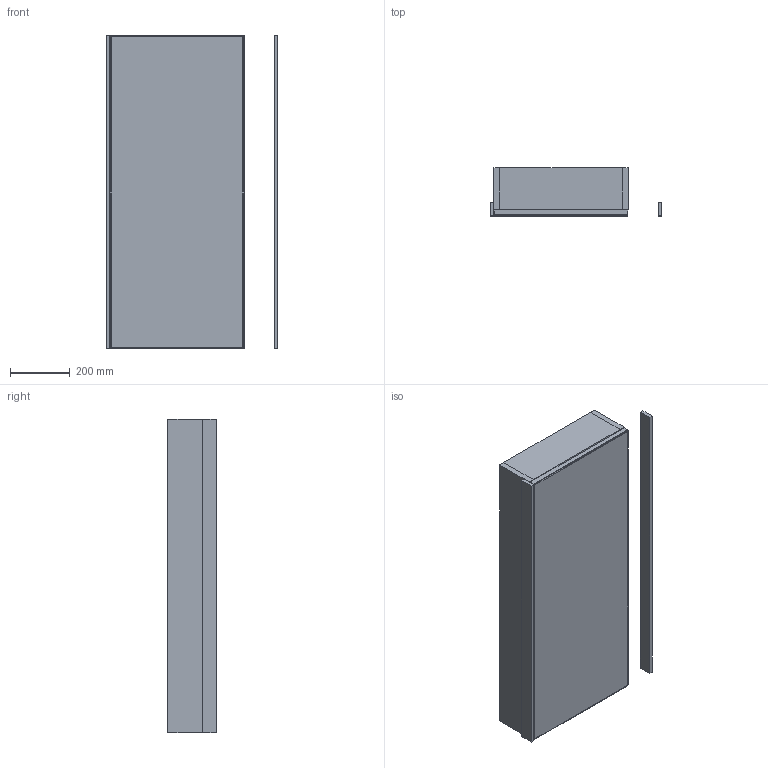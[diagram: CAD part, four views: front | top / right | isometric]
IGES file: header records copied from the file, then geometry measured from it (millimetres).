
Start section: Data from Parasolid IGES Translator 19.0.9, Copyright(c) 2006 Siemens PL M Software. All Rights Reserved.
Global section: file name: noorth-mirror-H 105 D 4,5-16 W 45_9132.igs; native system: By Siemens PLM Incorporated; preprocessor: XPlus GENERIC/IGES 19.0.9; author: Noname; organization: Noname; date: 20200519.104821; units: metre
Bounding box: 573.82 x 162 x 1050 mm (x, y, z)
Volume: 20248510.7 mm3; surface area: 4314877.3 mm2
Topology: 13 solids, 13 shells, 162 faces, 312 edges, 176 vertices
Faces by surface type: plane 162
